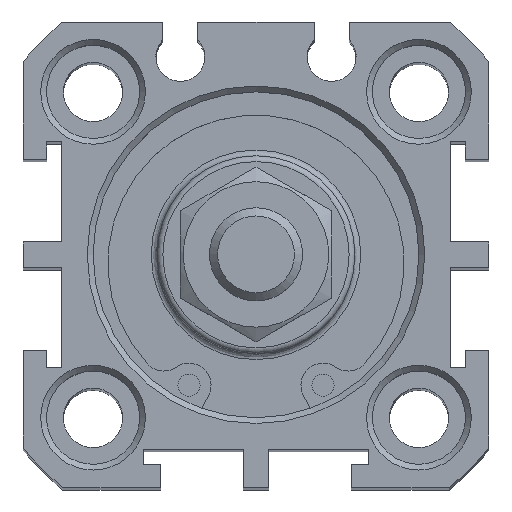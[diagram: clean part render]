
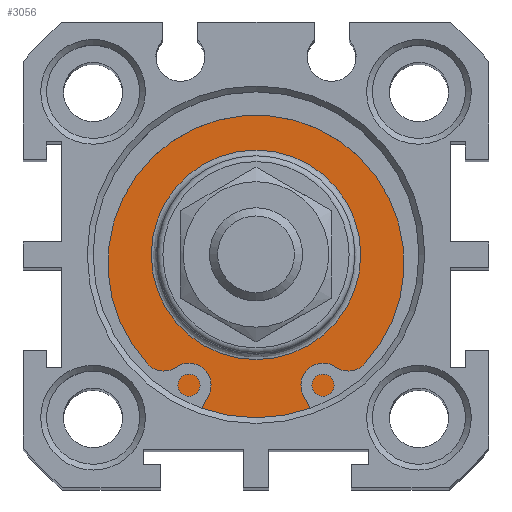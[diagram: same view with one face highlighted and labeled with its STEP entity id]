
A CAD part, top view. The second image highlights one B-rep face of the part: STEP entity #3056.
In plain terms, the highlighted planar face has unit normal (0, 0, 1).
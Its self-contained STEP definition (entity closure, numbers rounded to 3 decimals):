
#3005=CARTESIAN_POINT('',(0.12,10.914,118.3));
#3006=VERTEX_POINT('',#3005);
#3007=CARTESIAN_POINT('',(0.12,1.914,118.3));
#3008=DIRECTION('',(0.0,0.0,1.0));
#3009=DIRECTION('',(0.0,-1.0,0.0));
#3010=AXIS2_PLACEMENT_3D('',#3007,#3008,#3009);
#3011=CIRCLE('',#3010,9.);
#3012=EDGE_CURVE('',#3006,#3006,#3011,.T.);
#3037=CARTESIAN_POINT('',(0.12,13.164,118.3));
#3038=DIRECTION('',(0.0,0.0,1.0));
#3039=DIRECTION('',(1.0,0.0,0.0));
#3040=AXIS2_PLACEMENT_3D('',#3037,#3038,#3039);
#3041=PLANE('',#3040);
#3042=CARTESIAN_POINT('',(0.12,15.914,118.3));
#3043=VERTEX_POINT('',#3042);
#3044=CARTESIAN_POINT('',(0.12,1.914,118.3));
#3045=DIRECTION('',(0.0,0.0,-1.0));
#3046=DIRECTION('',(0.0,1.0,0.0));
#3047=AXIS2_PLACEMENT_3D('',#3044,#3045,#3046);
#3048=CIRCLE('',#3047,14.);
#3049=EDGE_CURVE('',#3043,#3043,#3048,.T.);
#3050=ORIENTED_EDGE('',*,*,#3049,.F.);
#3051=EDGE_LOOP('',(#3050));
#3052=FACE_OUTER_BOUND('',#3051,.T.);
#3053=ORIENTED_EDGE('',*,*,#3012,.F.);
#3054=EDGE_LOOP('',(#3053));
#3055=FACE_BOUND('',#3054,.T.);
#3056=ADVANCED_FACE('',(#3052,#3055),#3041,.T.);
